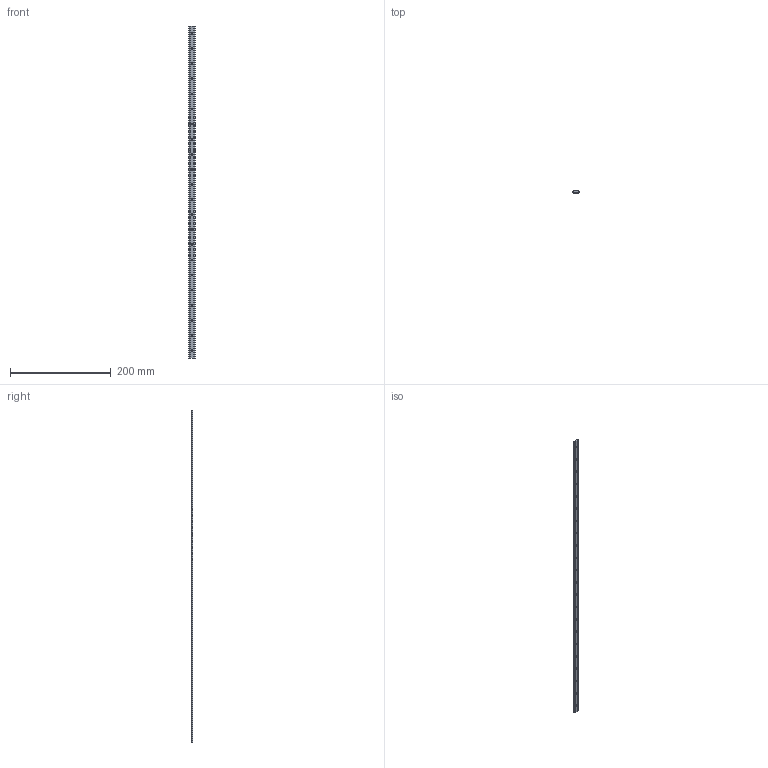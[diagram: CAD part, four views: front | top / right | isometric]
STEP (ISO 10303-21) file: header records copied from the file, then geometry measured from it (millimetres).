
FILE_DESCRIPTION(('STEP AP203'),'1');
FILE_NAME('//192.168.1.1/share/s-4 技術開発/s-4-4_CAD/s-4-4-6_見直し、確認済み/014 修正済み(済)/GF_TOP/GF-12P-660.step','2022-03-14T00:52:21',(' '),(' '),'Spatial InterOp 3D',' ',' ');
FILE_SCHEMA(('CONFIG_CONTROL_DESIGN'));
Length unit declared in the file: millimetre
Products named in the file (1): 1
Bounding box: 11.96 x 3 x 660 mm (x, y, z)
Volume: 19500.6 mm3; surface area: 18235.1 mm2
Topology: 1 solids, 1 shells, 36 faces, 124 edges, 90 vertices
Faces by surface type: cylinder 26, plane 10
Full cylindrical faces by diameter (mm): 3.5 x22
Entity records: 1220 total; most frequent: DIRECTION 206, CARTESIAN_POINT 185, ORIENTED_EDGE 160, EDGE_LOOP 102, AXIS2_PLACEMENT_3D 89, EDGE_CURVE 80, VERTEX_POINT 68, FACE_OUTER_BOUND 58
